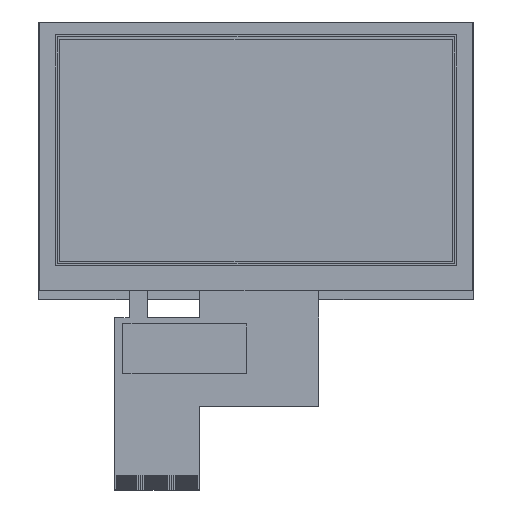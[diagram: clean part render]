
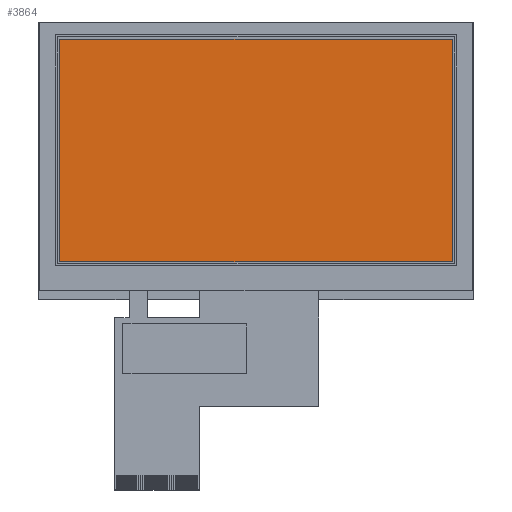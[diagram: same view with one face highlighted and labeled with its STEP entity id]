
A CAD part, top view. The second image highlights one B-rep face of the part: STEP entity #3864.
In plain terms, the highlighted planar face has unit normal (0, 0, 1).
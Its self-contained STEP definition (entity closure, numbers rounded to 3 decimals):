
#389 = ORIENTED_EDGE ( 'NONE', *, *, #5543, .F. ) ;
#548 = LINE ( 'NONE', #5508, #1828 ) ;
#604 = LINE ( 'NONE', #7569, #7595 ) ;
#605 = VECTOR ( 'NONE', #1931, 1000. ) ;
#1099 = EDGE_LOOP ( 'NONE', ( #8280, #5083, #389, #5307 ) ) ;
#1280 = CARTESIAN_POINT ( 'NONE',  ( 47.52, -24.405, 4. ) ) ;
#1370 = CARTESIAN_POINT ( 'NONE',  ( -47.52, 29.455, 4. ) ) ;
#1622 = CARTESIAN_POINT ( 'NONE',  ( 47.52, 29.455, 4. ) ) ;
#1828 = VECTOR ( 'NONE', #7480, 1000. ) ;
#1931 = DIRECTION ( 'NONE',  ( 1., 0., 0. ) ) ;
#2435 = FACE_OUTER_BOUND ( 'NONE', #1099, .T. ) ;
#2584 = VERTEX_POINT ( 'NONE', #1370 ) ;
#2865 = CARTESIAN_POINT ( 'NONE',  ( 0., 0., 4. ) ) ;
#3015 = CARTESIAN_POINT ( 'NONE',  ( -47.52, -24.405, 4. ) ) ;
#3249 = CARTESIAN_POINT ( 'NONE',  ( 0., 29.455, 4. ) ) ;
#3373 = EDGE_CURVE ( 'NONE', #4006, #2584, #548, .T. ) ;
#3864 = ADVANCED_FACE ( 'NONE', ( #2435 ), #8049, .T. ) ;
#4006 = VERTEX_POINT ( 'NONE', #3015 ) ;
#4242 = VECTOR ( 'NONE', #7383, 1000. ) ;
#4682 = LINE ( 'NONE', #3249, #605 ) ;
#5083 = ORIENTED_EDGE ( 'NONE', *, *, #7317, .F. ) ;
#5307 = ORIENTED_EDGE ( 'NONE', *, *, #7894, .F. ) ;
#5508 = CARTESIAN_POINT ( 'NONE',  ( -47.52, 0., 4. ) ) ;
#5543 = EDGE_CURVE ( 'NONE', #7187, #8013, #5929, .T. ) ;
#5929 = LINE ( 'NONE', #6728, #4242 ) ;
#6728 = CARTESIAN_POINT ( 'NONE',  ( 47.52, 0., 4. ) ) ;
#7187 = VERTEX_POINT ( 'NONE', #1622 ) ;
#7317 = EDGE_CURVE ( 'NONE', #8013, #4006, #604, .T. ) ;
#7320 = AXIS2_PLACEMENT_3D ( 'NONE', #2865, #7332, #8020 ) ;
#7332 = DIRECTION ( 'NONE',  ( 0., 0., 1. ) ) ;
#7383 = DIRECTION ( 'NONE',  ( 0., -1., 0. ) ) ;
#7480 = DIRECTION ( 'NONE',  ( 0., 1., 0. ) ) ;
#7569 = CARTESIAN_POINT ( 'NONE',  ( 0., -24.405, 4. ) ) ;
#7595 = VECTOR ( 'NONE', #8115, 1000. ) ;
#7894 = EDGE_CURVE ( 'NONE', #2584, #7187, #4682, .T. ) ;
#8013 = VERTEX_POINT ( 'NONE', #1280 ) ;
#8020 = DIRECTION ( 'NONE',  ( 1., 0., 0. ) ) ;
#8049 = PLANE ( 'NONE',  #7320 ) ;
#8115 = DIRECTION ( 'NONE',  ( -1., 0., 0. ) ) ;
#8280 = ORIENTED_EDGE ( 'NONE', *, *, #3373, .F. ) ;
